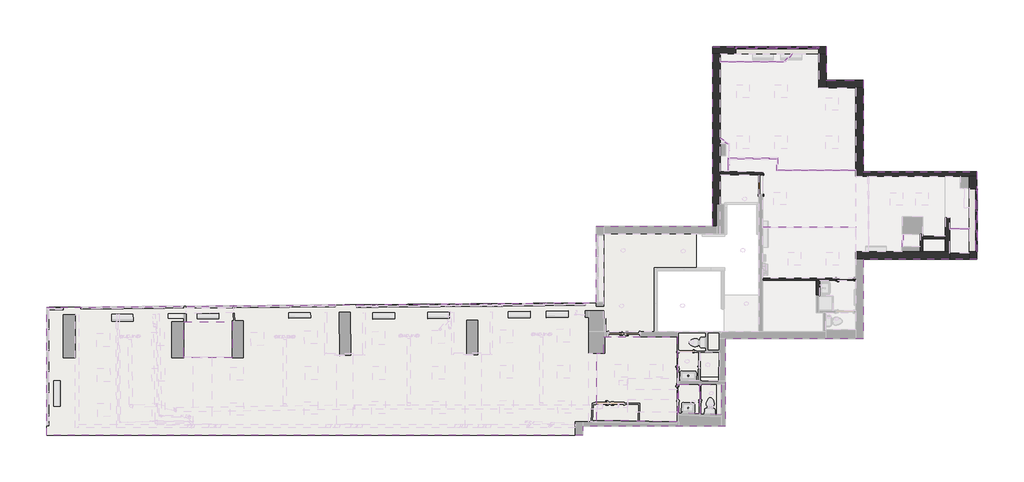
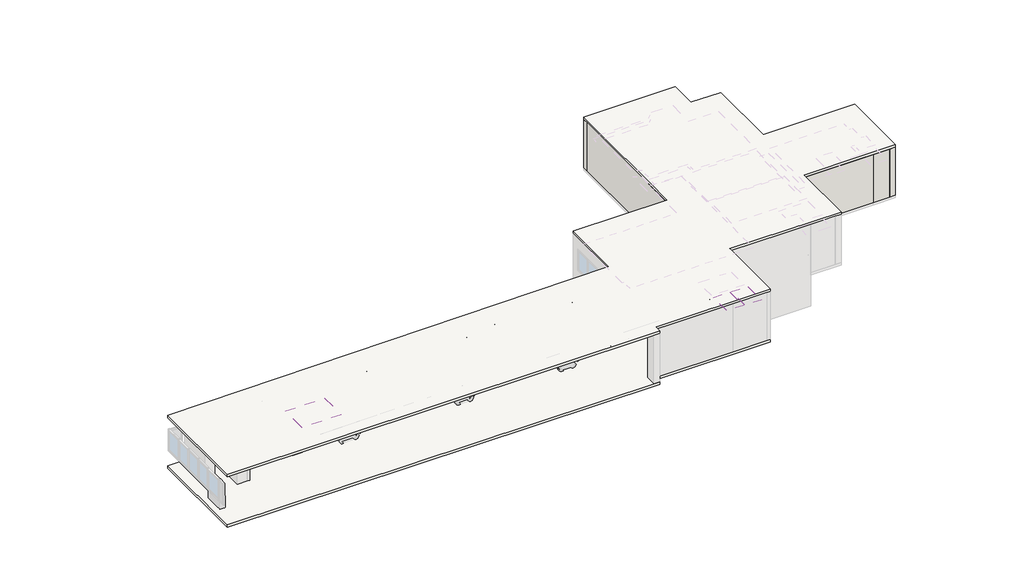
# One storey, part 4 of 8: 32 members, 25 walls, 7 windows, 4 plates, 4 slabs, 3 coverings, 2 doors.
"""IFC4 building model written with IfcOpenShell, lengths in millimetres."""

from ifc_helpers import new_model, si_unit, point, frame, frame_2d, origin, origin_with_axes, place, context, project, spatial, polyline, circle_curve, trimmed, segment, composite_curve, outline, extrude, faceted_brep, transform, mapped, element, save
from components import door_dadb3f6d, door_d1d36842, member_274769e7, member_8c67bc84, member_b2c305fd, member_55e5b55f, member_f87c016e, member_a4e05f77, member_b4d524fc, member_7b22ae2a, member_a57e5e80, member_40fa790f, member_37db2805, member_b4cda2ac, member_d19af839, member_77cbc450, member_acb6c1a4, member_5b28e207, member_f059bfab, curtain_wall_awning_curtain_wall_awning_2_6bc1f89d, curtain_wall_awning_curtain_wall_awning_2_53cfe8c5, curtain_wall_awning_curtain_wall_awning_2_9e451952, curtain_wall_awning_curtain_wall_awning_2_ca50caa1, curtain_wall_awning_curtain_wall_awning_2_b9894014, curtain_wall_awning_curtain_wall_awning_2_86a1bd72, curtain_wall_awning_curtain_wall_awning_2_62806ce6

model = new_model("IFC4")

# Units and contexts
model_context = context("Model", 3, world=origin())
ifc_project = project(units=[si_unit("LENGTHUNIT", "METRE", prefix="MILLI")], contexts=[model_context])

# Site, building, storey
site = spatial("IfcSite", under=ifc_project)
building = spatial("IfcBuilding", under=site)
storey = spatial("IfcBuildingStorey", under=building, Name="GFL", Elevation=0.0)

# Coverings
placement = place(None, origin())
element("IfcCovering", 1, ObjectType="2' x 2' ACT System", at=placement, inside=storey, context=model_context, shape_type="SweptSolid", body=[
    extrude(outline(polyline([(-14105.7055738, 2001.0638903), (-14105.7055738, 3410.4668617), (-13133.5145713, 3395.5066776), (-13133.5145713, 1961.0454184), (-14105.7055738, 2001.0638903)]), holes=[composite_curve([segment(trimmed(circle_curve(frame_2d((-13628.8145713, 2361.0954184)), 101.6), [point((-13527.2145713, 2361.0954184))], [point((-13730.4145713, 2361.0954184))], True, "CARTESIAN"), True, "CONTINUOUS"), segment(trimmed(circle_curve(frame_2d((-13628.8145713, 2361.0954184)), 101.6), [point((-13730.4145713, 2361.0954184))], [point((-13527.2145713, 2361.0954184))], True, "CARTESIAN"), True, "CONTINUOUS")], self_intersect=False)]), frame((0.0, 0.0, 2216.15), z_axis=(0.0, 0.0, 1.0), x_axis=(1.0, 0.0, 0.0)), (0.0, 0.0, 1.0), 57.15),
])
element("IfcCovering", 2, ObjectType="2' x 2' ACT System", at=placement, inside=storey, context=model_context, shape_type="SweptSolid", body=[
    extrude(outline(polyline([(-15165.5145713, 3426.7753213), (-14181.9055738, 3411.6394359), (-14181.9055738, 2010.5505245), (-15165.5145713, 2051.0389974), (-15165.5145713, 3426.7753213)]), holes=[composite_curve([segment(trimmed(circle_curve(frame_2d((-14477.9731047, 2551.5954184)), 101.6), [point((-14376.3731047, 2551.5954184))], [point((-14579.5731047, 2551.5954184))], True, "CARTESIAN"), True, "CONTINUOUS"), segment(trimmed(circle_curve(frame_2d((-14477.9731047, 2551.5954184)), 101.6), [point((-14579.5731047, 2551.5954184))], [point((-14376.3731047, 2551.5954184))], True, "CARTESIAN"), True, "CONTINUOUS")], self_intersect=False)]), frame((0.0, 0.0, 2216.15), z_axis=(0.0, 0.0, 1.0), x_axis=(1.0, 0.0, 0.0)), (0.0, 0.0, 1.0), 57.15),
])
element("IfcCovering", 3, ObjectType="GWB on Mtl. Stud", at=placement, inside=storey, context=model_context, shape_type="Brep", body=[
    faceted_brep([(-36533.1697398, 4690.640172, 1666.875), (-36533.1697398, 4741.440172, 1666.875), (-36533.1697398, 6414.2702534, 1666.875), (-38855.9143618, 6414.2702534, 1666.875), (-38855.9143618, 4741.440172, 1666.875), (-38855.9143618, 4690.640172, 1666.875), (-36533.1697398, 4690.640172, 1558.925), (-38855.9143618, 4690.640172, 1558.925), (-38855.9143618, 6414.2702534, 1558.925), (-36533.1697398, 6414.2702534, 1558.925)], [[[0, 1, 2, 3, 4, 5]], [[6, 7, 8, 9]], [[2, 1, 0, 6, 9]], [[3, 2, 9, 8]], [[5, 4, 3, 8, 7]], [[0, 5, 7, 6]]]),
])

# Doors
door_shape = door_dadb3f6d(model_context)
element("IfcDoor", 4, ObjectType="Door-Interior-Single-Flush_Panel-Wood : 2'8\" x 6'6\"", at=placement, inside=storey, context=model_context, shape_type="MappedRepresentation", body=[
    mapped(door_shape, transform((-7197.2727955, 8437.2107327, 0.0), x_axis=(1.0, 0.0, 0.0), y_axis=(0.0, 1.0, 0.0), z_axis=(0.0, 0.0, 1.0))),
])
door_2_shape = door_d1d36842(model_context)
element("IfcDoor", 5, ObjectType="Door-Single-Panel : 36\" x 80\" 2", at=placement, inside=storey, context=model_context, shape_type="MappedRepresentation", body=[
    mapped(door_2_shape, transform((-11231.5527068, 12961.5857327, 0.0), x_axis=(0.0, 1.0, 0.0), y_axis=(-1.0, 0.0, 0.0), z_axis=(0.0, 0.0, 1.0))),
])

# Members
member_shape = member_274769e7(model_context)
element("IfcMember", 6, ObjectType="Rectangular Mullion : 2.5\" x 5\" rectangular 2", at=placement, inside=storey, context=model_context, shape_type="MappedRepresentation", body=[
    mapped(member_shape, transform((-11485.4291902, 19528.8473103, 1910.1480654), x_axis=(0.0, 0.0, 1.0), y_axis=(0.0, -1.0, 0.0), z_axis=(1.0, 0.0, 0.0))),
])
element("IfcMember", 7, ObjectType="Rectangular Mullion : 2.5\" x 5\" rectangular 2", at=placement, inside=storey, context=model_context, shape_type="MappedRepresentation", body=[
    mapped(member_shape, transform((-12374.4291902, 19528.8473103, 945.8408633), x_axis=(0.0, 0.0, -1.0), y_axis=(0.0, -1.0, 0.0), z_axis=(-1.0, 0.0, 0.0))),
])
member_2_shape = member_8c67bc84(model_context)
element("IfcMember", 8, ObjectType="Rectangular Mullion : 2.5\" x 5\" rectangular 2", at=placement, inside=storey, context=model_context, shape_type="MappedRepresentation", body=[
    mapped(member_2_shape, transform((-11453.6791902, 19528.8473103, 945.8408633), x_axis=(1.0, 0.0, 0.0), y_axis=(0.0, -1.0, 0.0), z_axis=(0.0, 0.0, -1.0))),
])
element("IfcMember", 9, ObjectType="Rectangular Mullion : 2.5\" x 5\" rectangular 2", at=placement, inside=storey, context=model_context, shape_type="MappedRepresentation", body=[
    mapped(member_2_shape, transform((-10474.2982538, 19528.8473103, 945.8408633), x_axis=(1.0, 0.0, 0.0), y_axis=(0.0, -1.0, 0.0), z_axis=(0.0, 0.0, -1.0))),
])
element("IfcMember", 10, ObjectType="Rectangular Mullion : 2.5\" x 5\" rectangular 2", at=placement, inside=storey, context=model_context, shape_type="MappedRepresentation", body=[
    mapped(member_2_shape, transform((-9472.6923174, 19528.8473103, 945.8408633), x_axis=(1.0, 0.0, 0.0), y_axis=(0.0, -1.0, 0.0), z_axis=(0.0, 0.0, -1.0))),
])
member_3_shape = member_b2c305fd(model_context)
element("IfcMember", 11, ObjectType="Rectangular Mullion : 2.5\" x 5\" rectangular 2", at=placement, inside=storey, context=model_context, shape_type="MappedRepresentation", body=[
    mapped(member_3_shape, transform((-11453.6791902, 19528.8473103, 1706.9480654), x_axis=(1.0, 0.0, 0.0), y_axis=(0.0, -1.0, 0.0), z_axis=(0.0, 0.0, -1.0))),
])
element("IfcMember", 12, ObjectType="Rectangular Mullion : 2.5\" x 5\" rectangular 2", at=placement, inside=storey, context=model_context, shape_type="MappedRepresentation", body=[
    mapped(member_3_shape, transform((-10474.2982538, 19528.8473103, 1706.9480654), x_axis=(1.0, 0.0, 0.0), y_axis=(0.0, -1.0, 0.0), z_axis=(0.0, 0.0, -1.0))),
])
element("IfcMember", 13, ObjectType="Rectangular Mullion : 2.5\" x 5\" rectangular 2", at=placement, inside=storey, context=model_context, shape_type="MappedRepresentation", body=[
    mapped(member_3_shape, transform((-9472.6923174, 19528.8473103, 1706.9480654), x_axis=(1.0, 0.0, 0.0), y_axis=(0.0, -1.0, 0.0), z_axis=(0.0, 0.0, -1.0))),
])
member_4_shape = member_55e5b55f(model_context)
element("IfcMember", 14, ObjectType="Rectangular Mullion : 2.5\" x 5\" rectangular 2", at=placement, inside=storey, context=model_context, shape_type="MappedRepresentation", body=[
    mapped(member_4_shape, transform((-11485.4291902, 19528.8473103, 1706.9480654), x_axis=(0.0, 0.0, 1.0), y_axis=(0.0, -1.0, 0.0), z_axis=(1.0, 0.0, 0.0))),
])
member_5_shape = member_f87c016e(model_context)
element("IfcMember", 15, ObjectType="Rectangular Mullion : 2.5\" x 5\" rectangular 2", at=placement, inside=storey, context=model_context, shape_type="MappedRepresentation", body=[
    mapped(member_5_shape, transform((-12444.2791902, 19528.8473103, 1910.1480654), x_axis=(-1.0, 0.0, 0.0), y_axis=(0.0, -1.0, 0.0), z_axis=(0.0, 0.0, 1.0))),
])
member_6_shape = member_a4e05f77(model_context)
element("IfcMember", 16, ObjectType="Rectangular Mullion : 2.5\" x 5\" rectangular 2", at=placement, inside=storey, context=model_context, shape_type="MappedRepresentation", body=[
    mapped(member_6_shape, transform((-8458.386381, 19528.8473103, 945.8408633), x_axis=(1.0, 0.0, 0.0), y_axis=(0.0, -1.0, 0.0), z_axis=(0.0, 0.0, -1.0))),
])
element("IfcMember", 17, ObjectType="Rectangular Mullion : 2.5\" x 5\" rectangular 2", at=placement, inside=storey, context=model_context, shape_type="MappedRepresentation", body=[
    mapped(member_6_shape, transform((-12444.2791902, 19528.8473103, 1706.9480654), x_axis=(-1.0, 0.0, 0.0), y_axis=(0.0, -1.0, 0.0), z_axis=(0.0, 0.0, 1.0))),
])
element("IfcMember", 18, ObjectType="Rectangular Mullion : 2.5\" x 5\" rectangular 2", at=placement, inside=storey, context=model_context, shape_type="MappedRepresentation", body=[
    mapped(member_5_shape, transform((-8458.386381, 19528.8473103, 1706.9480654), x_axis=(1.0, 0.0, 0.0), y_axis=(0.0, -1.0, 0.0), z_axis=(0.0, 0.0, -1.0))),
])
member_7_shape = member_b4d524fc(model_context)
element("IfcMember", 19, ObjectType="Rectangular Mullion : 2.5\" x 5\" rectangular 2", at=placement, inside=storey, context=model_context, shape_type="MappedRepresentation", body=[
    mapped(member_7_shape, transform((-8528.236381, 19528.8473103, 1910.1480654), x_axis=(0.0, 0.0, 1.0), y_axis=(0.0, -1.0, 0.0), z_axis=(1.0, 0.0, 0.0))),
])
element("IfcMember", 20, ObjectType="Rectangular Mullion : 2.5\" x 5\" rectangular 2", at=placement, inside=storey, context=model_context, shape_type="MappedRepresentation", body=[
    mapped(member_7_shape, transform((-9434.5923174, 19528.8473103, 945.8408633), x_axis=(0.0, 0.0, -1.0), y_axis=(0.0, -1.0, 0.0), z_axis=(-1.0, 0.0, 0.0))),
])
member_8_shape = member_7b22ae2a(model_context)
element("IfcMember", 21, ObjectType="Rectangular Mullion : 2.5\" x 5\" rectangular 2", at=placement, inside=storey, context=model_context, shape_type="MappedRepresentation", body=[
    mapped(member_8_shape, transform((-8528.236381, 19528.8473103, 1706.9480654), x_axis=(0.0, 0.0, 1.0), y_axis=(0.0, -1.0, 0.0), z_axis=(1.0, 0.0, 0.0))),
])
member_9_shape = member_a57e5e80(model_context)
element("IfcMember", 22, ObjectType="Rectangular Mullion : 2.5\" x 5\" rectangular 2", at=placement, inside=storey, context=model_context, shape_type="MappedRepresentation", body=[
    mapped(member_9_shape, transform((-11415.5791902, 19528.8473103, 945.8408633), x_axis=(0.0, 0.0, -1.0), y_axis=(0.0, -1.0, 0.0), z_axis=(-1.0, 0.0, 0.0))),
])
member_10_shape = member_40fa790f(model_context)
element("IfcMember", 23, ObjectType="Rectangular Mullion : 2.5\" x 5\" rectangular 2", at=placement, inside=storey, context=model_context, shape_type="MappedRepresentation", body=[
    mapped(member_10_shape, transform((-10436.1982538, 19528.8473103, 945.8408633), x_axis=(0.0, 0.0, -1.0), y_axis=(0.0, -1.0, 0.0), z_axis=(-1.0, 0.0, 0.0))),
])
element("IfcMember", 24, ObjectType="Rectangular Mullion : 2.5\" x 5\" rectangular 2", at=placement, inside=storey, context=model_context, shape_type="MappedRepresentation", body=[
    mapped(member_9_shape, transform((-10506.0482538, 19528.8473103, 1910.1480654), x_axis=(0.0, 0.0, 1.0), y_axis=(0.0, -1.0, 0.0), z_axis=(1.0, 0.0, 0.0))),
])
element("IfcMember", 25, ObjectType="Rectangular Mullion : 2.5\" x 5\" rectangular 2", at=placement, inside=storey, context=model_context, shape_type="MappedRepresentation", body=[
    mapped(member_10_shape, transform((-9504.4423174, 19528.8473103, 1910.1480654), x_axis=(0.0, 0.0, 1.0), y_axis=(0.0, -1.0, 0.0), z_axis=(1.0, 0.0, 0.0))),
])
member_11_shape = member_37db2805(model_context)
element("IfcMember", 26, ObjectType="Rectangular Mullion : 2.5\" x 5\" rectangular 2", at=placement, inside=storey, context=model_context, shape_type="MappedRepresentation", body=[
    mapped(member_11_shape, transform((-9504.4423174, 19528.8473103, 1706.9480654), x_axis=(0.0, 0.0, 1.0), y_axis=(0.0, -1.0, 0.0), z_axis=(1.0, 0.0, 0.0))),
])
member_12_shape = member_b4cda2ac(model_context)
element("IfcMember", 27, ObjectType="Rectangular Mullion : 2.5\" x 5\" rectangular 2", at=placement, inside=storey, context=model_context, shape_type="MappedRepresentation", body=[
    mapped(member_12_shape, transform((-10506.0482538, 19528.8473103, 1706.9480654), x_axis=(0.0, 0.0, 1.0), y_axis=(0.0, -1.0, 0.0), z_axis=(1.0, 0.0, 0.0))),
])
member_13_shape = member_d19af839(model_context)
element("IfcMember", 28, ObjectType="Rectangular Mullion : 2.5\" x 5\" rectangular 2", at=placement, inside=storey, context=model_context, shape_type="MappedRepresentation", body=[
    mapped(member_13_shape, transform((-908.1561507, 12699.995722, 805.2287591), x_axis=(0.0, 0.0, -1.0), y_axis=(-1.0, 0.0, 0.0), z_axis=(0.0, 1.0, 0.0))),
])
member_14_shape = member_77cbc450(model_context)
element("IfcMember", 29, ObjectType="Rectangular Mullion : 2.5\" x 5\" rectangular 2", at=placement, inside=storey, context=model_context, shape_type="MappedRepresentation", body=[
    mapped(member_14_shape, transform((-908.1561507, 11770.7790554, 805.2287591), x_axis=(0.0, -1.0, 0.0), y_axis=(-1.0, 0.0, 0.0), z_axis=(0.0, 0.0, -1.0))),
])
element("IfcMember", 30, ObjectType="Rectangular Mullion : 2.5\" x 5\" rectangular 2", at=placement, inside=storey, context=model_context, shape_type="MappedRepresentation", body=[
    mapped(member_14_shape, transform((-908.1561507, 10759.0123887, 805.2287591), x_axis=(0.0, -1.0, 0.0), y_axis=(-1.0, 0.0, 0.0), z_axis=(0.0, 0.0, -1.0))),
])
element("IfcMember", 31, ObjectType="Rectangular Mullion : 2.5\" x 5\" rectangular 2", at=placement, inside=storey, context=model_context, shape_type="MappedRepresentation", body=[
    mapped(member_13_shape, transform((-908.1561507, 11802.5290554, 1438.010887), x_axis=(0.0, 0.0, 1.0), y_axis=(-1.0, 0.0, 0.0), z_axis=(0.0, -1.0, 0.0))),
])
member_15_shape = member_acb6c1a4(model_context)
element("IfcMember", 32, ObjectType="Rectangular Mullion : 2.5\" x 5\" rectangular 2", at=placement, inside=storey, context=model_context, shape_type="MappedRepresentation", body=[
    mapped(member_15_shape, transform((-908.1561507, 12769.845722, 1438.010887), x_axis=(0.0, 1.0, 0.0), y_axis=(-1.0, 0.0, 0.0), z_axis=(0.0, 0.0, 1.0))),
])
element("IfcMember", 33, ObjectType="Rectangular Mullion : 2.5\" x 5\" rectangular 2", at=placement, inside=storey, context=model_context, shape_type="MappedRepresentation", body=[
    mapped(member_15_shape, transform((-908.1561507, 9772.645722, 805.2287591), x_axis=(0.0, -1.0, 0.0), y_axis=(-1.0, 0.0, 0.0), z_axis=(0.0, 0.0, -1.0))),
])
member_16_shape = member_5b28e207(model_context)
element("IfcMember", 34, ObjectType="Rectangular Mullion : 2.5\" x 5\" rectangular 2", at=placement, inside=storey, context=model_context, shape_type="MappedRepresentation", body=[
    mapped(member_16_shape, transform((-908.1561507, 9842.495722, 1438.010887), x_axis=(0.0, 0.0, 1.0), y_axis=(-1.0, 0.0, 0.0), z_axis=(0.0, -1.0, 0.0))),
])
member_17_shape = member_f059bfab(model_context)
element("IfcMember", 35, ObjectType="Rectangular Mullion : 2.5\" x 5\" rectangular 2", at=placement, inside=storey, context=model_context, shape_type="MappedRepresentation", body=[
    mapped(member_17_shape, transform((-908.1561507, 11732.6790554, 805.2287591), x_axis=(0.0, 0.0, -1.0), y_axis=(-1.0, 0.0, 0.0), z_axis=(0.0, 1.0, 0.0))),
])
element("IfcMember", 36, ObjectType="Rectangular Mullion : 2.5\" x 5\" rectangular 2", at=placement, inside=storey, context=model_context, shape_type="MappedRepresentation", body=[
    mapped(member_16_shape, transform((-908.1561507, 10720.9123887, 805.2287591), x_axis=(0.0, 0.0, -1.0), y_axis=(-1.0, 0.0, 0.0), z_axis=(0.0, 1.0, 0.0))),
])
element("IfcMember", 37, ObjectType="Rectangular Mullion : 2.5\" x 5\" rectangular 2", at=placement, inside=storey, context=model_context, shape_type="MappedRepresentation", body=[
    mapped(member_17_shape, transform((-908.1561507, 10790.7623887, 1438.010887), x_axis=(0.0, 0.0, 1.0), y_axis=(-1.0, 0.0, 0.0), z_axis=(0.0, -1.0, 0.0))),
])

# Plates
element("IfcPlate", 38, ObjectType="Generic - 3 1/2\"", at=placement, inside=storey, context=model_context, shape_type="SweptSolid", body=[
    extrude(outline(polyline([(-9504.4423174, 19484.3973103), (-10436.1982538, 19484.3973103), (-10436.1982538, 19573.2973103), (-9504.4423174, 19573.2973103), (-9504.4423174, 19484.3973103)])), frame((0.0, 0.0, 1745.0480654), z_axis=(0.0, 0.0, 1.0), x_axis=(1.0, 0.0, 0.0)), (0.0, 0.0, 1.0), 95.25),
])
element("IfcPlate", 39, ObjectType="Generic - 3 1/2\"", at=placement, inside=storey, context=model_context, shape_type="SweptSolid", body=[
    extrude(outline(polyline([(-8528.236381, 19484.3973103), (-9434.5923174, 19484.3973103), (-9434.5923174, 19573.2973103), (-8528.236381, 19573.2973103), (-8528.236381, 19484.3973103)])), frame((0.0, 0.0, 1745.0480654), z_axis=(0.0, 0.0, 1.0), x_axis=(1.0, 0.0, 0.0)), (0.0, 0.0, 1.0), 95.25),
])
element("IfcPlate", 40, ObjectType="Generic - 3 1/2\"", at=placement, inside=storey, context=model_context, shape_type="SweptSolid", body=[
    extrude(outline(polyline([(-10506.0482538, 19484.3973103), (-11415.5791902, 19484.3973103), (-11415.5791902, 19573.2973103), (-10506.0482538, 19573.2973103), (-10506.0482538, 19484.3973103)])), frame((0.0, 0.0, 1745.0480654), z_axis=(0.0, 0.0, 1.0), x_axis=(1.0, 0.0, 0.0)), (0.0, 0.0, 1.0), 95.25),
])
element("IfcPlate", 41, ObjectType="Generic - 3 1/2\"", at=placement, inside=storey, context=model_context, shape_type="SweptSolid", body=[
    extrude(outline(polyline([(-11485.4291902, 19484.3973103), (-12374.4291902, 19484.3973103), (-12374.4291902, 19573.2973103), (-11485.4291902, 19573.2973103), (-11485.4291902, 19484.3973103)])), frame((0.0, 0.0, 1745.0480654), z_axis=(0.0, 0.0, 1.0), x_axis=(1.0, 0.0, 0.0)), (0.0, 0.0, 1.0), 95.25),
])

# Slabs
element("IfcSlab", 42, ObjectType="Generic - 6\"", at=placement, inside=storey, context=model_context, shape_type="Brep", body=[
    faceted_brep([(-16346.7493213, 5945.5585448, -152.4), (-12930.3145713, 5945.5585448, -152.4), (-12930.3145713, 1421.2954184, -152.4), (-19750.2145713, 1421.2954184, -152.4), (-19750.2145713, 984.9491383, -152.4), (-45424.9973245, 984.9491383, -152.4), (-45424.9973245, 7095.2919944, -152.4), (-19112.0867691, 7334.1131432, -152.4), (-19067.6367691, 7334.5165801, -152.4), (-19067.6367691, 10617.0245008, -152.4), (-18756.4867691, 10617.0245008, -152.4), (-14323.8791902, 10617.0245008, -152.4), (-14323.8791902, 9009.2921755, -152.4), (-16346.7493213, 9009.2921755, -152.4), (-12930.3145713, 5945.5585448, 0.0), (-16346.7493213, 5945.5585448, 0.0), (-16346.7493213, 9009.2921755, 0.0), (-14323.8791902, 9009.2921755, 0.0), (-14323.8791902, 10617.0245008, 0.0), (-18756.4867691, 10617.0245008, 0.0), (-19067.6367691, 10617.0245008, 0.0), (-19067.6367691, 7334.5165801, 0.0), (-19112.0867691, 7334.1131432, 0.0), (-31152.0703831, 7224.8358851, 0.0), (-45069.9736863, 7098.5142587, 0.0), (-45424.9973245, 7095.2919944, 0.0), (-45424.9973245, 984.9491383, 0.0), (-19750.2145713, 984.9491383, 0.0), (-19750.2145713, 1421.2954184, 0.0), (-12930.3145713, 1421.2954184, 0.0), (-13258.4370741, 3575.2500488, 0.0), (-14126.1831047, 3588.603022, 0.0), (-14126.1831047, 3779.0526864, 0.0), (-13255.1134596, 3765.6485691, 0.0), (-14126.1831047, 3588.603022, -41.275), (-13258.4370741, 3575.2500488, -41.275), (-13255.1134596, 3765.6485691, -41.275), (-14126.1831047, 3779.0526864, -41.275)], [[[0, 1, 2, 3, 4, 5, 6, 7, 8, 9, 10, 11, 12, 13]], [[14, 15, 16, 17, 18, 19, 20, 21, 22, 23, 24, 25, 26, 27, 28, 29], [30, 31, 32, 33]], [[1, 0, 15, 14]], [[2, 1, 14, 29]], [[3, 2, 29, 28]], [[4, 3, 28, 27]], [[5, 4, 27, 26]], [[6, 5, 26, 25]], [[8, 7, 6, 25, 24, 23, 22, 21]], [[9, 8, 21, 20]], [[11, 10, 9, 20, 19, 18]], [[12, 11, 18, 17]], [[13, 12, 17, 16]], [[0, 13, 16, 15]], [[34, 35, 36, 37]], [[35, 34, 31, 30]], [[34, 37, 32, 31]], [[37, 36, 33, 32]], [[36, 35, 30, 33]]]),
])
element("IfcSlab", 43, ObjectType="Generic - 6\"", at=placement, inside=storey, context=model_context, shape_type="SweptSolid", body=[
    extrude(outline(polyline([(-45424.9973245, 7095.2919944), (-19112.0867691, 7334.1131432), (-19112.0867691, 10972.6245008), (-13536.4791902, 10972.6245008), (-13536.4791902, 19585.9973103), (-8102.786381, 19585.9973103), (-8102.786381, 17961.3809522), (-6325.2731869, 17961.3809522), (-6325.2731869, 13591.9950658), (-889.1061507, 13591.9950658), (-889.1061507, 9413.6950658), (-6327.3227955, 9413.6950658), (-6327.3227955, 5589.9585448), (-12930.3145713, 5589.9585448), (-12930.3145713, 1421.2954184), (-19750.2145713, 1421.2954184), (-19750.2145713, 984.9491383), (-45424.9973245, 984.9491383), (-45424.9973245, 7095.2919944)])), frame((0.0, 0.0, 3028.95), z_axis=(0.0, 0.0, 1.0), x_axis=(1.0, 0.0, 0.0)), (0.0, 0.0, 1.0), 152.4),
])
element("IfcSlab", 44, ObjectType="Generic - 6\"", at=placement, inside=storey, context=model_context, shape_type="SweptSolid", body=[
    extrude(outline(polyline([(-15241.7145713, 1624.4954184), (-19085.9525663, 1688.8625002), (-19085.9525663, 4902.0245008), (-18755.7525663, 4902.0245008), (-18755.7525663, 5704.2585448), (-15241.7145713, 5704.2585448), (-15241.7145713, 1624.4954184)])), frame((0.0, 0.0, 2647.95), z_axis=(0.0, 0.0, 1.0), x_axis=(1.0, 0.0, 0.0)), (0.0, 0.0, 1.0), 152.4),
])
element("IfcSlab", 45, ObjectType="Generic - 6\"", at=placement, inside=storey, context=model_context, shape_type="Brep", body=[
    faceted_brep([(-13258.4370741, 3575.2500488, -41.275), (-14126.1831047, 3588.603022, -41.275), (-14126.1831047, 3779.0526864, -41.275), (-13255.1134596, 3765.6485691, -41.275), (-13258.4370741, 3575.2500488, 111.125), (-13255.1134596, 3765.6485691, 111.125), (-14126.1831047, 3779.0526864, 111.125), (-14126.1831047, 3588.603022, 111.125), (-13258.4370741, 3575.2500488, 0.0), (-14126.1831047, 3588.603022, 0.0), (-14126.1831047, 3779.0526864, 0.0), (-13255.1134596, 3765.6485691, 0.0)], [[[0, 1, 2, 3]], [[4, 5, 6, 7]], [[1, 0, 8, 4, 7, 9]], [[2, 1, 9, 7, 6, 10]], [[3, 2, 10, 6, 5, 11]], [[0, 3, 11, 5, 4, 8]]]),
])

# Walls
element("IfcWall", 46, ObjectType="Generic - 11\"", at=placement, inside=storey, context=model_context, shape_type="Brep", body=[
    faceted_brep([(-2197.2061507, 9413.6950658, 3028.95), (-2197.2061507, 9413.6950658, 0.0), (-1244.7061507, 9413.6950658, 0.0), (-1244.7061507, 9413.6950658, 3028.95), (-2197.2061507, 9693.0950658, 0.0), (-2197.2061507, 9693.0950658, 2432.05), (-2197.2061507, 9693.0950658, 3028.95), (-1244.7061507, 9693.0950658, 3028.95), (-1244.7061507, 9693.0950658, 120.65), (-1244.7061507, 9693.0950658, 0.0), (-2196.0199088, 9693.0950658, 0.0)], [[[0, 1, 2, 3]], [[4, 5, 6, 7, 8, 9, 10]], [[2, 1, 4, 10, 9]], [[3, 2, 9, 8, 7]], [[0, 6, 5, 4, 1]], [[0, 3, 7, 6]]]),
])
element("IfcWall", 47, ObjectType="Generic - 14\"", at=placement, inside=storey, context=model_context, shape_type="Brep", body=[
    faceted_brep([(-13536.4791902, 19230.3973103, 0.0), (-13180.8791902, 19230.3973103, 0.0), (-8458.386381, 19230.3973103, 0.0), (-8102.786381, 19230.3973103, 0.0), (-8102.786381, 19230.3973103, 3028.95), (-8458.386381, 19230.3973103, 3028.95), (-13180.8791902, 19230.3973103, 3028.95), (-13536.4791902, 19230.3973103, 3028.95), (-12444.2791902, 19230.3973103, 945.8408633), (-12444.2791902, 19230.3973103, 1910.1480654), (-8458.386381, 19230.3973103, 1910.1480654), (-8458.386381, 19230.3973103, 945.8408633), (-8102.786381, 19585.9973103, 0.0), (-13536.4791902, 19585.9973103, 0.0), (-13536.4791902, 19585.9973103, 3028.95), (-8102.786381, 19585.9973103, 3028.95), (-12444.2791902, 19585.9973103, 1910.1480654), (-12444.2791902, 19585.9973103, 945.8408633), (-8458.386381, 19585.9973103, 945.8408633), (-8458.386381, 19585.9973103, 1910.1480654)], [[[0, 1, 2, 3, 4, 5, 6, 7], [8, 9, 10, 11]], [[12, 13, 14, 15], [16, 17, 18, 19]], [[3, 2, 1, 0, 13, 12]], [[7, 6, 5, 4, 15, 14]], [[0, 7, 14, 13]], [[4, 3, 12, 15]], [[8, 17, 16, 9]], [[9, 16, 19, 10]], [[10, 19, 18, 11]], [[17, 8, 11, 18]]]),
])
element("IfcWall", 48, ObjectType="Generic - 14\"", at=placement, inside=storey, context=model_context, shape_type="Brep", body=[
    faceted_brep([(-8102.786381, 17605.7809522, 0.0), (-8102.786381, 17961.3809522, 0.0), (-8102.786381, 19230.3973103, 0.0), (-8102.786381, 19230.3973103, 3028.95), (-8102.786381, 17961.3809522, 3028.95), (-8102.786381, 17605.7809522, 3028.95), (-8458.386381, 17605.7809522, 0.0), (-8458.386381, 17605.7809522, 3028.95), (-8458.386381, 19230.3973103, 3028.95), (-8458.386381, 19230.3973103, 1910.1480654), (-8458.386381, 19230.3973103, 945.8408633), (-8458.386381, 19230.3973103, 0.0)], [[[0, 1, 2, 3, 4, 5]], [[6, 7, 8, 9, 10, 11]], [[2, 1, 0, 6, 11]], [[3, 2, 11, 10, 9, 8]], [[0, 5, 7, 6]], [[5, 4, 3, 8, 7]]]),
])
element("IfcWall", 49, ObjectType="Generic - 14\"", at=placement, inside=storey, context=model_context, shape_type="Brep", body=[
    faceted_brep([(-8102.786381, 17605.7809522, 0.0), (-6680.8731869, 17605.7809522, 0.0), (-6325.2731869, 17605.7809522, 0.0), (-6325.2731869, 17605.7809522, 3028.95), (-6680.8731869, 17605.7809522, 3028.95), (-8102.786381, 17605.7809522, 3028.95), (-8102.786381, 17961.3809522, 0.0), (-8102.786381, 17961.3809522, 3028.95), (-6325.2731869, 17961.3809522, 3028.95), (-6325.2731869, 17961.3809522, 0.0)], [[[0, 1, 2, 3, 4, 5]], [[6, 7, 8, 9]], [[2, 1, 0, 6, 9]], [[3, 2, 9, 8]], [[0, 5, 7, 6]], [[5, 4, 3, 8, 7]]]),
])
element("IfcWall", 50, ObjectType="Generic - 14\"", at=placement, inside=storey, context=model_context, shape_type="Brep", body=[
    faceted_brep([(-6680.8731869, 17605.7809522, 0.0), (-6680.8731869, 13388.7950658, 0.0), (-6680.8731869, 13388.7950658, 3028.95), (-6680.8731869, 17605.7809522, 3028.95), (-6325.2731869, 17605.7809522, 0.0), (-6325.2731869, 17605.7809522, 3028.95), (-6325.2731869, 13591.9950658, 3028.95), (-6325.2731869, 13388.7950658, 3028.95), (-6325.2731869, 13388.7950658, 0.0), (-6325.2731869, 13591.9950658, 0.0)], [[[0, 1, 2, 3]], [[4, 5, 6, 7, 8, 9]], [[1, 0, 4, 9, 8]], [[0, 3, 5, 4]], [[2, 1, 8, 7]], [[3, 2, 7, 6, 5]]]),
])
element("IfcWall", 51, ObjectType="Generic - 14\"", at=placement, inside=storey, context=model_context, shape_type="Brep", body=[
    faceted_brep([(-1244.7061507, 13388.7950658, 0.0), (-1244.7061507, 9693.0950658, 0.0), (-1244.7061507, 9413.6950658, 0.0), (-1244.7061507, 9413.6950658, 3028.95), (-1244.7061507, 9693.0950658, 3028.95), (-1244.7061507, 13388.7950658, 3028.95), (-1244.7061507, 13388.7950658, 120.65), (-1244.7061507, 12769.845722, 805.2287591), (-1244.7061507, 12769.845722, 1438.010887), (-1244.7061507, 9772.645722, 1438.010887), (-1244.7061507, 9772.645722, 805.2287591), (-889.1061507, 9413.6950658, 0.0), (-889.1061507, 9693.0950658, 0.0), (-889.1061507, 13388.7950658, 0.0), (-889.1061507, 13388.7950658, 3028.95), (-889.1061507, 9413.6950658, 3028.95), (-889.1061507, 12769.845722, 1438.010887), (-889.1061507, 12769.845722, 805.2287591), (-889.1061507, 9772.645722, 805.2287591), (-889.1061507, 9772.645722, 1438.010887)], [[[0, 1, 2, 3, 4, 5, 6], [7, 8, 9, 10]], [[11, 12, 13, 14, 15], [16, 17, 18, 19]], [[2, 1, 0, 13, 12, 11]], [[0, 6, 5, 14, 13]], [[3, 2, 11, 15]], [[7, 17, 16, 8]], [[9, 19, 18, 10]], [[17, 7, 10, 18]], [[19, 9, 8, 16]], [[5, 4, 3, 15, 14]]]),
])
element("IfcWall", 52, ObjectType="Generic - 14\"", at=placement, inside=storey, context=model_context, shape_type="Brep", body=[
    faceted_brep([(-6682.9227955, 9413.6950658, 0.0), (-6327.3227955, 9413.6950658, 0.0), (-2197.2061507, 9413.6950658, 0.0), (-2197.2061507, 9413.6950658, 3028.95), (-6327.3227955, 9413.6950658, 3028.95), (-6682.9227955, 9413.6950658, 3028.95), (-6682.9227955, 9769.2950658, 0.0), (-6682.9227955, 9769.2950658, 3028.95), (-2197.2061507, 9769.2950658, 3028.95), (-2197.2061507, 9769.2950658, 2432.05), (-2197.2061507, 9769.2950658, 0.0), (-2399.2199088, 9769.2950658, 0.0), (-3481.3157768, 9769.2950658, 0.0), (-3608.3157768, 9769.2950658, 0.0), (-2197.2061507, 9693.0950658, 0.0), (-2197.2061507, 9693.0950658, 3028.95)], [[[0, 1, 2, 3, 4, 5]], [[6, 7, 8, 9, 10, 11, 12, 13]], [[2, 1, 0, 6, 13, 12, 11, 10, 14]], [[3, 2, 14, 10, 9, 8, 15]], [[0, 5, 7, 6]], [[5, 4, 3, 15, 8, 7]]]),
])
element("IfcWall", 53, ObjectType="Generic - 14\"", at=placement, inside=storey, context=model_context, shape_type="Brep", body=[
    faceted_brep([(-13180.8791902, 19230.3973103, 0.0), (-13180.8791902, 19230.3973103, 3028.95), (-13180.8791902, 13613.044433, 3028.95), (-13180.8791902, 13460.6228958, 3028.95), (-13180.8791902, 12039.4245008, 3028.95), (-13180.8791902, 12039.4245008, 0.0), (-13180.8791902, 13460.6228958, 0.0), (-13180.8791902, 13613.044433, 0.0), (-13536.4791902, 19230.3973103, 0.0), (-13536.4791902, 12039.4245008, 0.0), (-13536.4791902, 10972.6245008, 0.0), (-13536.4791902, 10972.6245008, 3028.95), (-13536.4791902, 19230.3973103, 3028.95), (-13333.2791902, 12039.4245008, 0.0), (-13333.2791902, 10972.6245008, 0.0), (-13333.2791902, 10972.6245008, 3028.95), (-13333.2791902, 12039.4245008, 3028.95)], [[[0, 1, 2, 3, 4, 5, 6, 7]], [[8, 9, 10, 11, 12]], [[10, 9, 8, 0, 7, 6, 5, 13, 14]], [[1, 0, 8, 12]], [[1, 12, 11, 15, 16, 4, 3, 2]], [[11, 10, 14, 15]], [[13, 16, 15, 14]], [[16, 13, 5, 4]]]),
])
element("IfcWall", 54, ObjectType="Generic - 2\"", at=placement, inside=storey, context=model_context, shape_type="Brep", body=[
    faceted_brep([(-13180.8791902, 18840.026943, 1909.5988025), (-10100.5854351, 18840.026943, 1909.5988025), (-10100.5854351, 18840.026943, 2406.65), (-13180.8791902, 18840.026943, 2406.65), (-13180.8791902, 18890.826943, 1909.5988025), (-13180.8791902, 18890.826943, 2406.65), (-10121.6274841, 18890.826943, 2406.65), (-10049.7854351, 18890.826943, 2406.65), (-10049.7854351, 18890.826943, 1909.5988025), (-10121.6274841, 18890.826943, 1909.5988025)], [[[0, 1, 2, 3]], [[4, 5, 6, 7, 8, 9]], [[1, 0, 4, 9, 8]], [[3, 2, 7, 6, 5]], [[0, 3, 5, 4]], [[2, 1, 8, 7]]]),
])
element("IfcWall", 55, ObjectType="Generic - 2\"", at=placement, inside=storey, context=model_context, shape_type="SweptSolid", body=[
    extrude(outline(polyline([(-9710.2150678, 19230.3973103), (-10049.7854351, 18890.826943), (-10121.6274841, 18890.826943), (-9782.0571168, 19230.3973103), (-9710.2150678, 19230.3973103)])), frame((0.0, 0.0, 1909.5988025), z_axis=(0.0, 0.0, 1.0), x_axis=(1.0, 0.0, 0.0)), (0.0, 0.0, 1.0), 497.0511975),
])
element("IfcWall", 56, ObjectType="Generic - 2\"", at=placement, inside=storey, context=model_context, shape_type="Brep", body=[
    faceted_brep([(-12750.7457487, 14202.488672, 2260.6), (-10477.7337586, 14202.488672, 2260.6), (-10426.9337586, 14202.488672, 2260.6), (-10426.9337586, 14202.488672, 2406.65), (-10477.7337586, 14202.488672, 2406.65), (-12750.7457487, 14202.488672, 2406.65), (-12750.7457487, 14253.288672, 2260.6), (-12750.7457487, 14253.288672, 2406.65), (-10426.9337586, 14253.288672, 2406.65), (-10426.9337586, 14253.288672, 2260.6)], [[[0, 1, 2, 3, 4, 5]], [[6, 7, 8, 9]], [[2, 1, 0, 6, 9]], [[5, 4, 3, 8, 7]], [[0, 5, 7, 6]], [[3, 2, 9, 8]]]),
])
element("IfcWall", 57, ObjectType="Generic - 2\"", at=placement, inside=storey, context=model_context, shape_type="Brep", body=[
    faceted_brep([(-12750.7457487, 13605.8128133, 2017.5066303), (-12750.7457487, 14927.0290823, 2017.5066303), (-12750.7457487, 14927.0290823, 2406.65), (-12750.7457487, 14253.288672, 2406.65), (-12750.7457487, 14202.488672, 2406.65), (-12750.7457487, 13605.8128133, 2406.65), (-12801.5457487, 13606.6668884, 2017.5066303), (-12801.5457487, 13606.6668884, 2406.65), (-12801.5457487, 14900.5842761, 2406.65), (-12801.5457487, 14962.5996252, 2406.65), (-12801.5457487, 14962.5996252, 2230.7647294), (-12801.5457487, 14962.5996252, 2017.5066303)], [[[0, 1, 2, 3, 4, 5]], [[6, 7, 8, 9, 10, 11]], [[1, 0, 6, 11]], [[5, 4, 3, 2, 9, 8, 7]], [[0, 5, 7, 6]], [[2, 1, 11, 10, 9]]]),
])
element("IfcWall", 58, ObjectType="Generic - 2\"", at=placement, inside=storey, context=model_context, shape_type="SweptSolid", body=[
    extrude(outline(polyline([(-13180.8791902, 15228.2117605), (-12801.5457487, 14962.5996252), (-12801.5457487, 14900.5842761), (-13180.8791902, 15166.1964114), (-13180.8791902, 15228.2117605)])), frame((0.0, 0.0, 2230.7647294), z_axis=(0.0, 0.0, 1.0), x_axis=(1.0, 0.0, 0.0)), (0.0, 0.0, 1.0), 175.8852706),
])
element("IfcWall", 59, ObjectType="Generic - 2\"", at=placement, inside=storey, context=model_context, shape_type="Brep", body=[
    faceted_brep([(-10426.9337586, 13643.688672, 2260.6), (-10426.9337586, 13644.9367924, 2260.6), (-10426.9337586, 13695.7367924, 2260.6), (-10426.9337586, 14202.488672, 2260.6), (-10426.9337586, 14202.488672, 2406.65), (-10426.9337586, 13695.7367924, 2406.65), (-10426.9337586, 13644.9367924, 2406.65), (-10426.9337586, 13643.688672, 2406.65), (-10477.7337586, 13643.688672, 2260.6), (-10477.7337586, 13643.688672, 2406.65), (-10477.7337586, 14202.488672, 2406.65), (-10477.7337586, 14202.488672, 2260.6)], [[[0, 1, 2, 3, 4, 5, 6, 7]], [[8, 9, 10, 11]], [[3, 2, 1, 0, 8, 11]], [[7, 6, 5, 4, 10, 9]], [[0, 7, 9, 8]], [[4, 3, 11, 10]]]),
])
element("IfcWall", 60, ObjectType="Generic - 2\"", at=placement, inside=storey, context=model_context, shape_type="SweptSolid", body=[
    extrude(outline(polyline([(-6680.8731869, 13644.9367924), (-10426.9337586, 13644.9367924), (-10426.9337586, 13695.7367924), (-6680.8731869, 13695.7367924), (-6680.8731869, 13644.9367924)])), frame((0.0, 0.0, 2260.6), z_axis=(0.0, 0.0, 1.0), x_axis=(1.0, 0.0, 0.0)), (0.0, 0.0, 1.0), 146.05),
])
element("IfcWall", 61, ObjectType="Generic - 2\"", at=placement, inside=storey, context=model_context, shape_type="SweptSolid", body=[
    extrude(outline(polyline([(-6680.8731869, 10900.4032427), (-11129.9527068, 10900.4032427), (-11129.9527068, 10951.2032427), (-6680.8731869, 10951.2032427), (-6680.8731869, 10900.4032427)])), frame((0.0, 0.0, 2317.75), z_axis=(0.0, 0.0, 1.0), x_axis=(1.0, 0.0, 0.0)), (0.0, 0.0, 1.0), 107.95),
])
element("IfcWall", 62, ObjectType="Generic - 2\"", at=placement, inside=storey, context=model_context, shape_type="SweptSolid", body=[
    extrude(outline(polyline([(-1244.7061507, 10847.0795958), (-2196.0199088, 10847.0795958), (-2196.0199088, 10897.8795958), (-1244.7061507, 10897.8795958), (-1244.7061507, 10847.0795958)])), frame((0.0, 0.0, 2180.9666095), z_axis=(0.0, 0.0, 1.0), x_axis=(1.0, 0.0, 0.0)), (0.0, 0.0, 1.0), 251.0833905),
])
element("IfcWall", 63, ObjectType="Generic - 2\"", at=placement, inside=storey, context=model_context, shape_type="SweptSolid", body=[
    extrude(outline(polyline([(-4417.9407768, 10608.7170688), (-4417.9407768, 9999.6810033), (-4468.7407768, 9999.6810033), (-4468.7407768, 10608.7170688), (-4417.9407768, 10608.7170688)])), frame((0.0, 0.0, 2158.774897), z_axis=(0.0, 0.0, 1.0), x_axis=(1.0, 0.0, 0.0)), (0.0, 0.0, 1.0), 273.275103),
])
element("IfcWall", 64, ObjectType="Generic - 4\"", at=placement, inside=storey, context=model_context, shape_type="Brep", body=[
    faceted_brep([(-6682.9227955, 8389.5857327, 0.0), (-6682.9227955, 8389.5857327, 3028.95), (-8421.1230269, 8389.5857327, 3028.95), (-8573.5230269, 8389.5857327, 3028.95), (-11129.9527068, 8389.5857327, 3028.95), (-11129.9527068, 8389.5857327, 0.0), (-8573.5230269, 8389.5857327, 0.0), (-8421.1230269, 8389.5857327, 0.0), (-7629.0727955, 8389.5857327, 0.0), (-7629.0727955, 8389.5857327, 2006.6), (-6765.4727955, 8389.5857327, 2006.6), (-6765.4727955, 8389.5857327, 0.0), (-6682.9227955, 8491.1857327, 3028.95), (-6682.9227955, 8491.1857327, 0.0), (-6765.4727955, 8491.1857327, 0.0), (-6765.4727955, 8491.1857327, 2006.6), (-7629.0727955, 8491.1857327, 2006.6), (-7629.0727955, 8491.1857327, 0.0), (-11129.9527068, 8491.1857327, 0.0), (-11129.9527068, 8491.1857327, 3028.95)], [[[0, 1, 2, 3, 4, 5, 6, 7, 8, 9, 10, 11]], [[12, 13, 14, 15, 16, 17, 18, 19]], [[5, 18, 17, 8, 7, 6]], [[13, 0, 11, 14]], [[1, 0, 13, 12]], [[5, 4, 19, 18]], [[10, 15, 14, 11]], [[15, 10, 9, 16]], [[16, 9, 8, 17]], [[4, 3, 2, 1, 12, 19]]]),
])
element("IfcWall", 65, ObjectType="Generic - 5\"", at=placement, inside=storey, context=model_context, shape_type="SweptSolid", body=[
    extrude(outline(polyline([(-3608.3157768, 9769.2950658), (-3608.3157768, 10608.7170688), (-3481.3157768, 10608.7170688), (-3481.3157768, 9769.2950658), (-3608.3157768, 9769.2950658)])), origin_with_axes(), (0.0, 0.0, 1.0), 2432.05),
])
element("IfcWall", 66, ObjectType="Generic - 5\"", at=placement, inside=storey, context=model_context, shape_type="SweptSolid", body=[
    extrude(outline(polyline([(-2399.2199088, 10383.6268595), (-3481.3157768, 10383.6268595), (-3481.3157768, 10510.6268595), (-2399.2199088, 10510.6268595), (-2399.2199088, 10383.6268595)])), origin_with_axes(), (0.0, 0.0, 1.0), 2432.05),
])
element("IfcWall", 67, ObjectType="Generic - 6\"", at=placement, inside=storey, context=model_context, shape_type="Brep", body=[
    faceted_brep([(-13180.8791902, 13460.6228958, 0.0), (-11129.9527068, 13426.1416885, 0.0), (-11129.9527068, 13426.1416885, 3028.95), (-11333.1527068, 13429.5579891, 3028.95), (-13180.8791902, 13460.6228958, 3028.95), (-13180.8791902, 13613.044433, 0.0), (-13180.8791902, 13613.044433, 3028.95), (-11129.9527068, 13578.5632257, 3028.95), (-11129.9527068, 13578.5632257, 0.0)], [[[0, 1, 2, 3, 4]], [[5, 6, 7, 8]], [[1, 0, 5, 8]], [[0, 4, 6, 5]], [[2, 1, 8, 7]], [[4, 3, 2, 7, 6]]]),
])
element("IfcWall", 68, ObjectType="Generic - 6\"", at=placement, inside=storey, context=model_context, shape_type="SweptSolid", body=[
    extrude(outline(polyline([(-8421.1230269, 8389.5857327), (-8421.1230269, 7657.1610317), (-8471.9230269, 7657.1610317), (-8471.9230269, 7669.8610317), (-8573.5230269, 7669.8610317), (-8573.5230269, 8389.5857327), (-8421.1230269, 8389.5857327)])), origin_with_axes(), (0.0, 0.0, 1.0), 3028.95),
])
element("IfcWall", 69, ObjectType="Generic - 8\"", at=placement, inside=storey, context=model_context, shape_type="Brep", body=[
    faceted_brep([(-6325.2731869, 13388.7950658, 0.0), (-2399.2199088, 13388.7950658, 0.0), (-2196.0199088, 13388.7950658, 0.0), (-1244.7061507, 13388.7950658, 0.0), (-889.1061507, 13388.7950658, 0.0), (-889.1061507, 13388.7950658, 3028.95), (-1244.7061507, 13388.7950658, 3028.95), (-6325.2731869, 13388.7950658, 3028.95), (-6325.2731869, 13591.9950658, 0.0), (-6325.2731869, 13591.9950658, 3028.95), (-889.1061507, 13591.9950658, 3028.95), (-889.1061507, 13591.9950658, 0.0), (-2196.0199088, 13591.9950658, 0.0)], [[[0, 1, 2, 3, 4, 5, 6, 7]], [[8, 9, 10, 11, 12]], [[4, 3, 2, 1, 0, 8, 12, 11]], [[0, 7, 9, 8]], [[5, 4, 11, 10]], [[7, 6, 5, 10, 9]]]),
])
element("IfcWall", 70, ObjectType="Generic - 8\"", at=placement, inside=storey, context=model_context, shape_type="Brep", body=[
    faceted_brep([(-2399.2199088, 11399.6268595, 0.0), (-2399.2199088, 9769.2950658, 0.0), (-2399.2199088, 9769.2950658, 2432.05), (-2399.2199088, 11399.6268595, 2432.05), (-2196.0199088, 11399.6268595, 0.0), (-2196.0199088, 11399.6268595, 2432.05), (-2196.0199088, 10897.8795958, 2432.05), (-2196.0199088, 10847.0795958, 2432.05), (-2196.0199088, 9693.0950658, 2432.05), (-2196.0199088, 9693.0950658, 0.0), (-2197.2061507, 9693.0950658, 0.0), (-2197.2061507, 9769.2950658, 0.0), (-2197.2061507, 9769.2950658, 2432.05), (-2197.2061507, 9693.0950658, 2432.05)], [[[0, 1, 2, 3]], [[4, 5, 6, 7, 8, 9]], [[1, 0, 4, 9, 10, 11]], [[3, 2, 12, 13, 8, 7, 6, 5]], [[0, 3, 5, 4]], [[2, 1, 11, 12]], [[11, 10, 13, 12]], [[10, 9, 8, 13]]]),
])

# Windows
curtain_wall_awning_curtain_wall_awning_2_shape = curtain_wall_awning_curtain_wall_awning_2_6bc1f89d(model_context)
element("IfcWindow", 71, ObjectType="Curtain Wall-Awning : Curtain Wall-Awning 2", at=placement, inside=storey, context=model_context, shape_type="MappedRepresentation", body=[
    mapped(curtain_wall_awning_curtain_wall_awning_2_shape, transform((-11929.9291902, 19528.8473103, 1015.6908633), x_axis=(1.0, 0.0, 0.0), y_axis=(0.0, 1.0, 0.0), z_axis=(0.0, 0.0, 1.0))),
])
curtain_wall_awning_curtain_wall_awning_2_2_shape = curtain_wall_awning_curtain_wall_awning_2_53cfe8c5(model_context)
element("IfcWindow", 72, ObjectType="Curtain Wall-Awning : Curtain Wall-Awning 2", at=placement, inside=storey, context=model_context, shape_type="MappedRepresentation", body=[
    mapped(curtain_wall_awning_curtain_wall_awning_2_2_shape, transform((-8981.4143492, 19528.8473103, 1015.6908633), x_axis=(1.0, 0.0, 0.0), y_axis=(0.0, 1.0, 0.0), z_axis=(0.0, 0.0, 1.0))),
])
curtain_wall_awning_curtain_wall_awning_2_3_shape = curtain_wall_awning_curtain_wall_awning_2_9e451952(model_context)
element("IfcWindow", 73, ObjectType="Curtain Wall-Awning : Curtain Wall-Awning 2", at=placement, inside=storey, context=model_context, shape_type="MappedRepresentation", body=[
    mapped(curtain_wall_awning_curtain_wall_awning_2_3_shape, transform((-10960.813722, 19528.8473103, 1015.6908633), x_axis=(1.0, 0.0, 0.0), y_axis=(0.0, 1.0, 0.0), z_axis=(0.0, 0.0, 1.0))),
])
curtain_wall_awning_curtain_wall_awning_2_4_shape = curtain_wall_awning_curtain_wall_awning_2_ca50caa1(model_context)
element("IfcWindow", 74, ObjectType="Curtain Wall-Awning : Curtain Wall-Awning 2", at=placement, inside=storey, context=model_context, shape_type="MappedRepresentation", body=[
    mapped(curtain_wall_awning_curtain_wall_awning_2_4_shape, transform((-9970.3202856, 19528.8473103, 1015.6908633), x_axis=(1.0, 0.0, 0.0), y_axis=(0.0, 1.0, 0.0), z_axis=(0.0, 0.0, 1.0))),
])
curtain_wall_awning_curtain_wall_awning_2_5_shape = curtain_wall_awning_curtain_wall_awning_2_b9894014(model_context)
element("IfcWindow", 75, ObjectType="Curtain Wall-Awning : Curtain Wall-Awning 2", at=placement, inside=storey, context=model_context, shape_type="MappedRepresentation", body=[
    mapped(curtain_wall_awning_curtain_wall_awning_2_5_shape, transform((-908.1561507, 12251.2623887, 875.0787591), x_axis=(0.0, -1.0, 0.0), y_axis=(1.0, 0.0, 0.0), z_axis=(0.0, 0.0, 1.0))),
])
curtain_wall_awning_curtain_wall_awning_2_6_shape = curtain_wall_awning_curtain_wall_awning_2_86a1bd72(model_context)
element("IfcWindow", 76, ObjectType="Curtain Wall-Awning : Curtain Wall-Awning 2", at=placement, inside=storey, context=model_context, shape_type="MappedRepresentation", body=[
    mapped(curtain_wall_awning_curtain_wall_awning_2_6_shape, transform((-908.1561507, 11261.720722, 875.0787591), x_axis=(0.0, -1.0, 0.0), y_axis=(1.0, 0.0, 0.0), z_axis=(0.0, 0.0, 1.0))),
])
curtain_wall_awning_curtain_wall_awning_2_7_shape = curtain_wall_awning_curtain_wall_awning_2_62806ce6(model_context)
element("IfcWindow", 77, ObjectType="Curtain Wall-Awning : Curtain Wall-Awning 2", at=placement, inside=storey, context=model_context, shape_type="MappedRepresentation", body=[
    mapped(curtain_wall_awning_curtain_wall_awning_2_7_shape, transform((-908.1561507, 10281.7040554, 875.0787591), x_axis=(0.0, -1.0, 0.0), y_axis=(1.0, 0.0, 0.0), z_axis=(0.0, 0.0, 1.0))),
])

save(model, "model.ifc")
